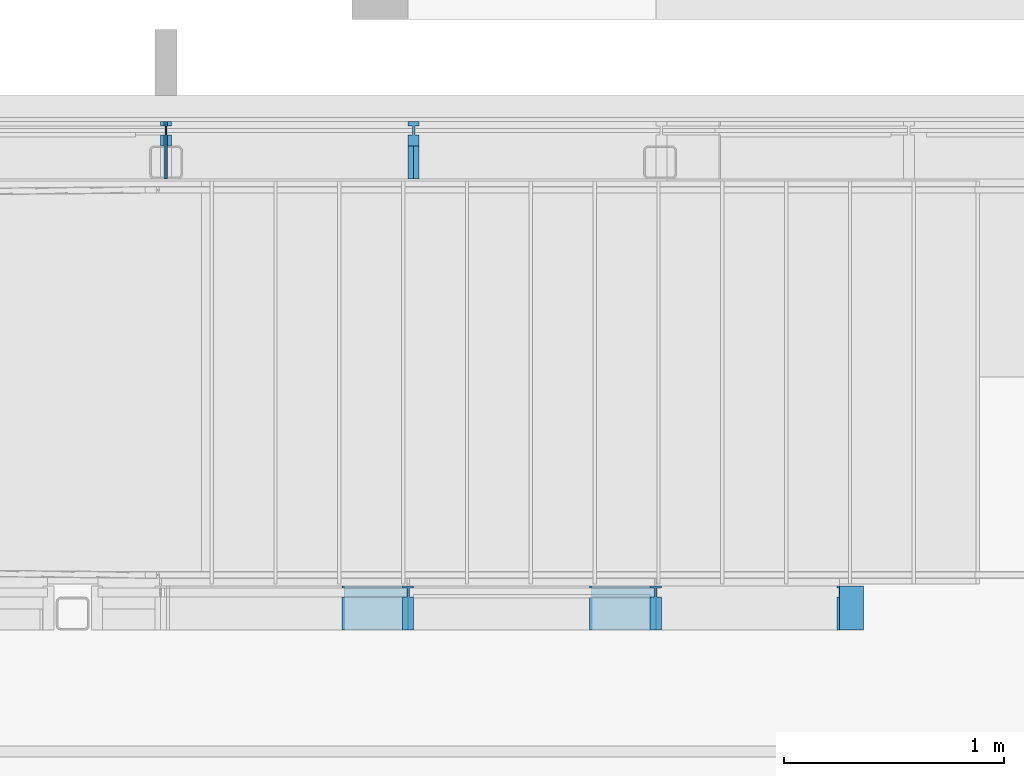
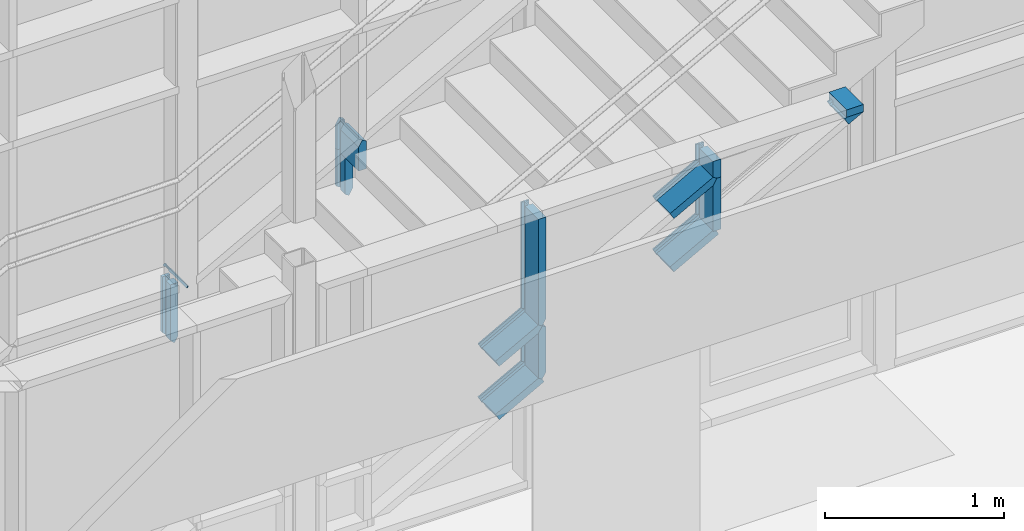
# One storey, part 69 of 301: 14 members, 2 elements without a shape of their own.
"""IFC2X3 building model written with IfcOpenShell, lengths in millimetres."""

from ifc_helpers import new_model, entity, si_unit, converted_unit, derived_unit, money_unit, direction, frame, origin_with_axes, place, context, subcontext, project, spatial, faceted_brep, material, type_object, element, aggregate, save


model = new_model("IFC2X3")

# Units and contexts
model_context = context("Model", 3, precision=0.01, world=origin_with_axes(), true_north=direction((0.0, 1.0)))
body_context = subcontext(model_context, "Body", "Model", "MODEL_VIEW")
ifc_project = project(units=[si_unit("LENGTHUNIT", "METRE", prefix="MILLI"), si_unit("AREAUNIT", "SQUARE_METRE"), si_unit("VOLUMEUNIT", "CUBIC_METRE"), converted_unit("PLANEANGLEUNIT", "DEGREE", entity("IfcPlaneAngleMeasure", 0.0174532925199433), si_unit("PLANEANGLEUNIT", "RADIAN"), dimensions=[0, 0, 0, 0, 0, 0, 0]), money_unit("EUR"), converted_unit("TIMEUNIT", "Year", entity("IfcTimeMeasure", 31557600.0), si_unit("TIMEUNIT", "SECOND"), dimensions=[0, 0, 1, 0, 0, 0, 0]), si_unit("MASSUNIT", "GRAM", prefix="KILO"), si_unit("THERMODYNAMICTEMPERATUREUNIT", "DEGREE_CELSIUS"), si_unit("LUMINOUSINTENSITYUNIT", "LUMEN"), si_unit("ENERGYUNIT", "JOULE", prefix="MEGA"), derived_unit("THERMALCONDUCTANCEUNIT", [(si_unit("POWERUNIT", "WATT"), 1), (si_unit("LENGTHUNIT", "METRE"), -1), (si_unit("THERMODYNAMICTEMPERATUREUNIT", "KELVIN"), -1)]), derived_unit("SPECIFICHEATCAPACITYUNIT", [(si_unit("ENERGYUNIT", "JOULE"), 1), (si_unit("MASSUNIT", "GRAM", prefix="KILO"), -1), (si_unit("THERMODYNAMICTEMPERATUREUNIT", "KELVIN"), -1)]), derived_unit("MASSDENSITYUNIT", [(si_unit("MASSUNIT", "GRAM", prefix="KILO"), 1), (si_unit("VOLUMEUNIT", "CUBIC_METRE"), -1)])], contexts=[model_context])

# Site, building, storey
site_placement = place(None, frame((0.0, 0.0, 8650.0), z_axis=(0.0, 0.0, 1.0), x_axis=(1.0, 0.0, 0.0)))
site = spatial("IfcSite", under=ifc_project, at=site_placement, Name="43301:001:0844", CompositionType="ELEMENT")
building_placement = place(site_placement, origin_with_axes())
building = spatial("IfcBuilding", under=site, at=building_placement, Name="Kuressaare Ametikooli tuulikute mehaanikute õppekorpus", CompositionType="ELEMENT")
storey_placement = place(building_placement, origin_with_axes())
storey = spatial("IfcBuildingStorey", under=building, at=storey_placement, Name="1.korrus", CompositionType="ELEMENT", Elevation=0.0)

# Curtain wall, members
curtain_wall_type = type_object("IfcCurtainWallType", Name="Curtain Wall Type", PredefinedType="NOTDEFINED")
curtain_wall_1_placement = place(storey_placement, frame((116704.6026822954, 28579.57374875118, 35.00000000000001), z_axis=(0.0, 0.0, 1.0), x_axis=(1.0, 0.0, 0.0)))
curtain_wall_1 = element("IfcCurtainWall", 1, at=curtain_wall_1_placement, inside=storey, type_object=curtain_wall_type, Name="KF-1.1")
ifc_material = material(Name="Aluminium")
member_type_1 = type_object("IfcMemberType", Name="Mullion Frame 50 x 260", PredefinedType="NOTDEFINED")
member_1_placement = place(curtain_wall_1_placement, frame((-3937.5, 0.0, 2511.519477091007), z_axis=(0.0, 0.0, 1.0), x_axis=(-1.0, 0.0, 0.0)))
member_1 = element("IfcMember", 2, at=member_1_placement, type_object=member_type_1, material=ifc_material, context=body_context, shape_type="Brep", body=[
    faceted_brep([(-4.999999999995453, 19.99999999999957, 200.8877841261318), (-4.999999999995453, -19.99999999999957, 200.8877841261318), (-25.00000000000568, -19.99999999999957, 188.9958371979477), (-25.00000000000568, -39.99999999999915, 188.9958371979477), (0.0, -39.99999999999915, 203.860770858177), (0.0, 219.9999999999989, 203.860770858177), (-25.00000000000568, 219.9999999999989, 188.9958371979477), (-25.00000000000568, 19.99999999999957, 188.9958371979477), (-4.999999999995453, 19.99999999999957, 0.0), (-4.999999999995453, -19.99999999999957, 0.0), (-25.00000000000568, -19.99999999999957, 0.0), (-25.00000000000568, -39.99999999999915, 0.0), (25.00000000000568, -39.99999999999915, 0.0), (25.00000000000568, -39.99999999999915, 161.8155109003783), (25.00000000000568, -19.99999999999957, 161.8155109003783), (4.999999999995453, -19.99999999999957, 195.4517188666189), (4.999999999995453, 19.99999999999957, 195.4517188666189), (25.00000000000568, 19.99999999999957, 161.8155109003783), (25.00000000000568, 219.9999999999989, 161.8155109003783), (25.00000000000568, 219.9999999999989, 0.0), (-25.00000000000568, 219.9999999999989, 0.0), (-25.00000000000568, 19.99999999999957, 0.0), (25.00000000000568, 19.99999999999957, 0.0), (4.999999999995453, 19.99999999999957, 0.0), (4.999999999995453, -19.99999999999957, 0.0), (25.00000000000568, -19.99999999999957, 0.0)], [[[0, 1, 2, 3, 4, 5, 6, 7]], [[0, 8, 9, 1]], [[1, 9, 10, 2]], [[10, 11, 3, 2]], [[11, 12, 13, 4, 3]], [[5, 4, 13, 14, 15, 16, 17, 18]], [[18, 19, 20, 6, 5]], [[7, 6, 20, 21]], [[7, 21, 8, 0]], [[9, 8, 21, 20, 19, 22, 23, 24, 25, 12, 11, 10]], [[25, 14, 13, 12]], [[14, 25, 24, 15]], [[16, 15, 24, 23]], [[17, 16, 23, 22]], [[17, 22, 19, 18]]]),
])
member_2_placement = place(curtain_wall_1_placement, frame((-5062.5, 0.0, 2103.822906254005), z_axis=(0.0, 0.0, 1.0), x_axis=(-1.0, 0.0, 0.0)))
member_2 = element("IfcMember", 3, at=member_2_placement, type_object=member_type_1, material=ifc_material, context=body_context, shape_type="Brep", body=[
    faceted_brep([(-4.999999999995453, 19.99999999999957, 9.725914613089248), (-4.999999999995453, -19.99999999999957, 9.725914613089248), (-5.783003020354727, -19.99999999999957, 9.725914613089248), (-5.783003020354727, -39.99999999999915, 9.725914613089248), (0.0, -39.99999999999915, 9.725914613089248), (0.0, 219.9999999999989, 9.725914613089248), (-5.783003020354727, 219.9999999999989, 9.725914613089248), (-5.783003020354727, 19.99999999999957, 9.725914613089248), (-4.999999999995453, 19.99999999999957, 8.409051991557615), (-4.999999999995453, -19.99999999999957, 8.409051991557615), (0.0, 219.9999999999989, 0.0), (0.0, -39.99999999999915, 0.0), (9.725914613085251, -39.99999999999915, 0.0), (9.725914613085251, -19.99999999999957, 0.0), (4.999999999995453, -19.99999999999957, 4.725914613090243), (4.999999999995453, 19.99999999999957, 4.725914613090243), (9.725914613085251, 19.99999999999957, 0.0), (9.725914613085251, 219.9999999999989, 0.0), (4.999999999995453, 19.99999999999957, 0.0), (4.999999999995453, -19.99999999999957, 0.0)], [[[0, 1, 2, 3, 4, 5, 6, 7]], [[0, 8, 9, 1]], [[1, 9, 2]], [[9, 8, 7, 6, 10, 11, 3, 2]], [[4, 3, 11, 12]], [[5, 4, 12, 13, 14, 15, 16, 17]], [[17, 10, 6, 5]], [[7, 8, 0]], [[12, 11, 10, 17, 16, 18, 19, 13]], [[19, 14, 13]], [[15, 14, 19, 18]], [[15, 18, 16]]]),
])
member_type_2 = type_object("IfcMemberType", Name="50 x 110", PredefinedType="NOTDEFINED")
member_3_placement = place(curtain_wall_1_placement, frame((-5062.5, 0.0, 1635.327982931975), z_axis=(0.0, 0.0, 1.0), x_axis=(-1.0, 0.0, 0.0)))
member_3 = element("IfcMember", 4, at=member_3_placement, type_object=member_type_2, material=ifc_material, context=body_context, shape_type="Brep", body=[
    faceted_brep([(-4.999999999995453, 19.99999999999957, 404.6720357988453), (-4.999999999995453, -19.99999999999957, 404.6720357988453), (-25.00000000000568, -19.99999999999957, 404.6720357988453), (-25.00000000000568, -39.99999999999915, 404.6720357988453), (25.00000000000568, -39.99999999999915, 404.6720357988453), (25.00000000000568, -19.99999999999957, 404.6720357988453), (4.999999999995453, -19.99999999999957, 404.6720357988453), (4.999999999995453, 19.99999999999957, 404.6720357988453), (25.00000000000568, 19.99999999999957, 404.6720357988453), (25.00000000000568, 70.00000000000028, 404.6720357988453), (-25.00000000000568, 70.00000000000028, 404.6720357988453), (-25.00000000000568, 19.99999999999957, 404.6720357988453), (-4.999999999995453, 19.99999999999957, 8.409051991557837), (-4.999999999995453, -19.99999999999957, 8.409051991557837), (-25.00000000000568, -19.99999999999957, 42.04525995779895), (-25.00000000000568, -39.99999999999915, 42.04525995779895), (25.00000000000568, -39.99999999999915, 24.99999999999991), (0.0, -39.99999999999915, 0.0), (25.00000000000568, -19.99999999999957, 24.99999999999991), (4.999999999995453, -19.99999999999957, 4.999999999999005), (4.999999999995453, 19.99999999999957, 4.999999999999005), (25.00000000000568, 19.99999999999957, 24.99999999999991), (25.00000000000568, 70.00000000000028, 24.99999999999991), (-25.00000000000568, 70.00000000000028, 42.04525995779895), (0.0, 70.00000000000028, 0.0), (-25.00000000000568, 19.99999999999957, 42.04525995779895)], [[[0, 1, 2, 3, 4, 5, 6, 7, 8, 9, 10, 11]], [[0, 12, 13, 1]], [[1, 13, 14, 2]], [[14, 15, 3, 2]], [[16, 4, 3, 15, 17]], [[18, 5, 4, 16]], [[5, 18, 19, 6]], [[7, 6, 19, 20]], [[8, 7, 20, 21]], [[8, 21, 22, 9]], [[23, 10, 9, 22, 24]], [[11, 10, 23, 25]], [[11, 25, 12, 0]], [[13, 12, 25, 23, 24, 17, 15, 14]], [[16, 17, 24, 22, 21, 20, 19, 18]]]),
])
member_4_placement = place(curtain_wall_1_placement, frame((-3937.5, 0.0, 2246.885324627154), z_axis=(0.0, 0.0, 1.0), x_axis=(-1.0, 0.0, 0.0)))
member_4 = element("IfcMember", 5, at=member_4_placement, type_object=member_type_2, material=ifc_material, context=body_context, shape_type="Brep", body=[
    faceted_brep([(-4.999999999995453, 19.99999999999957, 264.6341524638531), (-4.999999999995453, -19.99999999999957, 264.6341524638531), (-25.00000000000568, -19.99999999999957, 264.6341524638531), (-25.00000000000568, -39.99999999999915, 264.6341524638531), (25.00000000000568, -39.99999999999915, 264.6341524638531), (25.00000000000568, -19.99999999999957, 264.6341524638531), (4.999999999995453, -19.99999999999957, 264.6341524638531), (4.999999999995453, 19.99999999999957, 264.6341524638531), (25.00000000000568, 19.99999999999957, 264.6341524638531), (25.00000000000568, 70.00000000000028, 264.6341524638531), (-25.00000000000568, 70.00000000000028, 264.6341524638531), (-25.00000000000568, 19.99999999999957, 264.6341524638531), (-4.999999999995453, 19.99999999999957, 8.409051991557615), (-4.999999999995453, -19.99999999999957, 8.409051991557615), (-25.00000000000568, -19.99999999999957, 42.04525995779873), (-25.00000000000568, -39.99999999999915, 42.04525995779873), (25.00000000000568, -39.99999999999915, 14.86493366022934), (0.0, -39.99999999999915, 0.0), (25.00000000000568, -19.99999999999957, 14.86493366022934), (4.999999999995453, -19.99999999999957, 2.972986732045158), (4.999999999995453, 19.99999999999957, 2.972986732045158), (25.00000000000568, 19.99999999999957, 14.86493366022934), (25.00000000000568, 70.00000000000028, 14.86493366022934), (-25.00000000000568, 70.00000000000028, 42.04525995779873), (0.0, 70.00000000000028, 0.0), (-25.00000000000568, 19.99999999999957, 42.04525995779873)], [[[0, 1, 2, 3, 4, 5, 6, 7, 8, 9, 10, 11]], [[0, 12, 13, 1]], [[1, 13, 14, 2]], [[14, 15, 3, 2]], [[16, 4, 3, 15, 17]], [[18, 5, 4, 16]], [[5, 18, 19, 6]], [[7, 6, 19, 20]], [[8, 7, 20, 21]], [[8, 21, 22, 9]], [[23, 10, 9, 22, 24]], [[11, 10, 23, 25]], [[11, 25, 12, 0]], [[13, 12, 25, 23, 24, 17, 15, 14]], [[16, 17, 24, 22, 21, 20, 19, 18]]]),
])
aggregate(curtain_wall_1, [member_1, member_2, member_3, member_4])

curtain_wall_2_placement = place(storey_placement, frame((111472.5258007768, 26479.57374875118, 1595.348937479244), z_axis=(0.0, 0.0, 1.0), x_axis=(1.0, 0.0, 0.0)))
curtain_wall_2 = element("IfcCurtainWall", 6, at=curtain_wall_2_placement, inside=storey, type_object=curtain_wall_type, Name="SKF-1.2,EI60")
member_type_3 = type_object("IfcMemberType", Name="Boundary Frame 50 x 200", PredefinedType="NOTDEFINED")
member_5_placement = place(curtain_wall_2_placement, frame((3331.859564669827, 0.0, 1900.000044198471), z_axis=(-0.9999999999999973, 0.0, -7.377577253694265e-08), x_axis=(7.377577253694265e-08, 0.0, -0.9999999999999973)))
member_5 = element("IfcMember", 7, at=member_5_placement, type_object=member_type_3, material=ifc_material, context=body_context, shape_type="Brep", body=[
    faceted_brep([(4.999992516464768, 19.99999999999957, 101.4362172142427), (24.99999251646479, 19.99999999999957, 101.4362186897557), (24.99999251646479, 170.0000000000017, 101.4362186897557), (-25.00000748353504, 170.0000000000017, 101.4362150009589), (-25.00000748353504, -30.00000000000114, 101.4362150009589), (24.99999251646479, -30.00000000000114, 101.4362186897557), (24.99999251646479, -19.99999999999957, 101.4362186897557), (4.999992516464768, -19.99999999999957, 101.4362172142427), (5.000000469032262, 19.99999999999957, -6.357535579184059), (25.00000046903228, 19.99999999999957, -6.357534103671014), (25.00000046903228, 170.0000000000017, -6.357534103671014), (-24.99999953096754, 170.0000000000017, -6.357537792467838), (-24.99999953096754, -30.00000000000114, -6.357537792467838), (25.00000046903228, -30.00000000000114, -6.357534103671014), (25.00000046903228, -19.99999999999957, -6.357534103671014), (5.000000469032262, -19.99999999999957, -6.357535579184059)], [[[0, 1, 2, 3, 4, 5, 6, 7]], [[0, 8, 9, 1]], [[9, 10, 2, 1]], [[10, 11, 3, 2]], [[11, 12, 4, 3]], [[12, 13, 5, 4]], [[6, 5, 13, 14]], [[14, 15, 7, 6]], [[7, 15, 8, 0]], [[8, 15, 14, 13, 12, 11, 10, 9]]]),
])
member_type_4 = type_object("IfcMemberType", Name="Mullion Frame 50 x 200", PredefinedType="NOTDEFINED")
member_6_placement = place(curtain_wall_2_placement, frame((1269.576675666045, 0.0, 1141.067258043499), z_axis=(5.715965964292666e-09, 0.0, 1.0), x_axis=(-1.0, 0.0, 5.715965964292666e-09)))
member_6 = element("IfcMember", 8, at=member_6_placement, type_object=member_type_4, material=ifc_material, context=body_context, shape_type="Brep", body=[
    faceted_brep([(-4.999995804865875, 19.99999999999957, 733.9327785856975), (-4.999995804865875, -19.99999999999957, 733.9327788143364), (-24.99999580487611, -19.99999999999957, 733.9327789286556), (-24.99999580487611, -30.00000000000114, 733.9327789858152), (25.00000419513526, -30.00000000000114, 733.9327787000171), (25.00000419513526, -19.99999999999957, 733.9327786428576), (5.00000419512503, -19.99999999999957, 733.9327787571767), (5.00000419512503, 19.99999999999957, 733.9327785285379), (25.00000419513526, 19.99999999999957, 733.9327784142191), (25.00000419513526, 170.0000000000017, 733.932777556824), (-24.99999580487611, 170.0000000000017, 733.9327778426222), (-24.99999580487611, 19.99999999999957, 733.9327787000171), (-4.999999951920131, 19.99999999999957, 8.410212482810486), (-4.999999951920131, -19.99999999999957, 8.410212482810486), (-24.99999975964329, -19.99999999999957, 42.05106241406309), (-24.99999975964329, -30.00000000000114, 42.05106241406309), (25.00000008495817, -30.00000000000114, 14.86288202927), (0.0, -30.00000000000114, 0.0), (25.00000008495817, -19.99999999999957, 14.86288202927), (5.000000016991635, -19.99999999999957, 2.972576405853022), (5.000000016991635, 19.99999999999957, 2.972576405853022), (25.00000008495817, 19.99999999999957, 14.86288202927), (25.00000008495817, 170.0000000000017, 14.86288202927), (-24.99999975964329, 170.0000000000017, 42.05106241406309), (0.0, 170.0000000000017, 0.0), (-24.99999975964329, 19.99999999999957, 42.05106241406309)], [[[0, 1, 2, 3, 4, 5, 6, 7, 8, 9, 10, 11]], [[0, 12, 13, 1]], [[1, 13, 14, 2]], [[14, 15, 3, 2]], [[16, 4, 3, 15, 17]], [[18, 5, 4, 16]], [[5, 18, 19, 6]], [[7, 6, 19, 20]], [[8, 7, 20, 21]], [[8, 21, 22, 9]], [[23, 10, 9, 22, 24]], [[11, 10, 23, 25]], [[11, 25, 12, 0]], [[13, 12, 25, 23, 24, 17, 15, 14]], [[16, 17, 24, 22, 21, 20, 19, 18]]]),
])
member_7_placement = place(curtain_wall_2_placement, frame((1269.576677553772, 0.0, 778.5994381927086), z_axis=(-5.207985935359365e-09, 0.0, 1.0), x_axis=(-1.0, 0.0, -5.207985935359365e-09)))
member_7 = element("IfcMember", 9, at=member_7_placement, type_object=member_type_4, material=ifc_material, context=body_context, shape_type="Brep", body=[
    faceted_brep([(-5.00000187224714, 19.99999999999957, 359.4952432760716), (-5.00000187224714, -19.99999999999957, 359.4952432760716), (-25.00000181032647, -19.99999999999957, 347.6049369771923), (-25.00000181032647, -30.00000000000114, 347.6049369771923), (-1.887727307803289e-06, -30.00000000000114, 362.4678198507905), (-1.887727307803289e-06, 170.0000000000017, 362.4678198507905), (-25.00000181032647, 170.0000000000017, 347.6049369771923), (-25.00000181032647, 19.99999999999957, 347.6049369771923), (-5.000000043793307, 19.99999999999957, 8.410233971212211), (-5.000000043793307, -19.99999999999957, 8.410233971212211), (-25.00000021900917, -19.99999999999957, 42.05116985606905), (-25.00000021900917, -30.00000000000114, 42.05116985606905), (0.0, -30.00000000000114, 0.0), (24.99999992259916, -30.00000000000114, 14.86284461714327), (24.99999833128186, -30.00000000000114, 320.4167571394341), (24.99999833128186, -19.99999999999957, 320.4167571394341), (4.999998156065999, -19.99999999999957, 354.05760730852), (4.999998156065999, 19.99999999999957, 354.05760730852), (24.99999833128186, 19.99999999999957, 320.4167571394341), (24.99999833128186, 170.0000000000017, 320.4167571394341), (0.0, 170.0000000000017, 0.0), (-25.00000021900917, 170.0000000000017, 42.05116985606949), (24.99999992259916, 170.0000000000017, 14.86284461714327), (-25.00000021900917, 19.99999999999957, 42.05116985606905), (24.99999992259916, 19.99999999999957, 14.86284461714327), (4.999999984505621, 19.99999999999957, 2.972568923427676), (4.999999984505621, -19.99999999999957, 2.972568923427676), (24.99999992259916, -19.99999999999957, 14.86284461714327)], [[[0, 1, 2, 3, 4, 5, 6, 7]], [[0, 8, 9, 1]], [[1, 9, 10, 2]], [[10, 11, 3, 2]], [[12, 13, 14, 4, 3, 11]], [[5, 4, 14, 15, 16, 17, 18, 19]], [[20, 21, 6, 5, 19, 22]], [[7, 6, 21, 23]], [[7, 23, 8, 0]], [[9, 8, 23, 21, 20, 12, 11, 10]], [[13, 12, 20, 22, 24, 25, 26, 27]], [[27, 15, 14, 13]], [[15, 27, 26, 16]], [[17, 16, 26, 25]], [[18, 17, 25, 24]], [[18, 24, 22, 19]]]),
])
member_8_placement = place(curtain_wall_2_placement, frame((2394.576644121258, 0.0, 1397.757854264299), z_axis=(-5.714664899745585e-09, 0.0, 1.0), x_axis=(-1.0, 0.0, -5.714664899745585e-09)))
member_8 = element("IfcMember", 10, at=member_8_placement, type_object=member_type_4, material=ifc_material, context=body_context, shape_type="Brep", body=[
    faceted_brep([(-5.000002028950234, 19.99999999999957, 355.0435270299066), (-5.000002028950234, -19.99999999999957, 355.0435270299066), (-25.00000202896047, -19.99999999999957, 355.0435269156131), (-25.00000202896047, -30.00000000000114, 355.0435269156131), (-2.028954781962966e-06, -30.00000000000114, 355.0435270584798), (-2.028954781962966e-06, 170.0000000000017, 355.0435270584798), (-25.00000202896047, 170.0000000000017, 355.0435269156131), (-25.00000202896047, 19.99999999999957, 355.0435269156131), (-4.999999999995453, 19.99999999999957, -2.857314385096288e-08), (-4.999999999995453, -19.99999999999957, -2.857314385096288e-08), (-25.00000000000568, -19.99999999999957, -1.428666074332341e-07), (-25.00000000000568, -30.00000000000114, -1.428666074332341e-07), (25.00000000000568, -30.00000000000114, 1.428670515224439e-07), (24.99999821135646, -30.00000000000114, 312.9924518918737), (24.99999821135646, -19.99999999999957, 312.9924518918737), (4.999998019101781, -19.99999999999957, 346.6333120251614), (4.999998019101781, 19.99999999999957, 346.6333120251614), (24.99999821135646, 19.99999999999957, 312.9924518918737), (24.99999821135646, 170.0000000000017, 312.9924518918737), (25.00000000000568, 170.0000000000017, 1.428670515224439e-07), (-25.00000000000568, 170.0000000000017, -1.428666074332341e-07), (-25.00000000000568, 19.99999999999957, -1.428666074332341e-07), (25.00000000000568, 19.99999999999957, 1.428670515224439e-07), (4.999999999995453, 19.99999999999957, 2.857358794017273e-08), (4.999999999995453, -19.99999999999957, 2.857358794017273e-08), (25.00000000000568, -19.99999999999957, 1.428670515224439e-07)], [[[0, 1, 2, 3, 4, 5, 6, 7]], [[0, 8, 9, 1]], [[1, 9, 10, 2]], [[10, 11, 3, 2]], [[3, 11, 12, 13, 4]], [[5, 4, 13, 14, 15, 16, 17, 18]], [[19, 20, 6, 5, 18]], [[7, 6, 20, 21]], [[7, 21, 8, 0]], [[9, 8, 21, 20, 19, 22, 23, 24, 25, 12, 11, 10]], [[25, 14, 13, 12]], [[14, 25, 24, 15]], [[16, 15, 24, 23]], [[17, 16, 23, 22]], [[17, 22, 19, 18]]]),
])
member_9_placement = place(curtain_wall_2_placement, frame((1269.576675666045, 0.0, 1141.067258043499), z_axis=(-0.8785193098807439, 0.0, -0.4777068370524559), x_axis=(0.4777068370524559, 0.0, -0.8785193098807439)))
member_9 = element("IfcMember", 11, at=member_9_placement, type_object=member_type_4, material=ifc_material, context=body_context, shape_type="Brep", body=[
    faceted_brep([(-4.999999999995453, 19.99999999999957, 329.1371338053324), (-4.999999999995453, -19.99999999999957, 329.1371338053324), (-24.99999999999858, -19.99999999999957, 329.1371338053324), (-24.99999999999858, -30.00000000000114, 329.1371338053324), (24.99999999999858, -30.00000000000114, 329.1371338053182), (24.99999999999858, -19.99999999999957, 329.1371338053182), (4.999999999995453, -19.99999999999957, 329.1371338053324), (4.999999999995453, 19.99999999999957, 329.1371338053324), (24.99999999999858, 19.99999999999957, 329.1371338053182), (24.99999999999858, 170.0000000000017, 329.1371338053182), (-24.99999999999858, 170.0000000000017, 329.1371338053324), (-24.99999999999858, 19.99999999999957, 329.1371338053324), (-5.000000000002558, 19.99999999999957, 2.972576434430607), (-5.000000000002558, -19.99999999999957, 2.972576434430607), (-25.00000000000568, -19.99999999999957, 14.86288217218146), (-25.00000000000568, -30.00000000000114, 14.86288217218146), (25.00000000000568, -30.00000000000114, 42.05106284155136), (0.0, -30.00000000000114, 0.0), (25.00000000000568, -19.99999999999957, 42.05106284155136), (5.000000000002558, -19.99999999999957, 8.410212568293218), (5.000000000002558, 19.99999999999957, 8.410212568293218), (25.00000000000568, 19.99999999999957, 42.05106284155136), (25.00000000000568, 170.0000000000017, 42.05106284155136), (-25.00000000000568, 170.0000000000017, 14.86288217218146), (0.0, 170.0000000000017, 0.0), (-25.00000000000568, 19.99999999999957, 14.86288217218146)], [[[0, 1, 2, 3, 4, 5, 6, 7, 8, 9, 10, 11]], [[0, 12, 13, 1]], [[1, 13, 14, 2]], [[14, 15, 3, 2]], [[16, 4, 3, 15, 17]], [[18, 5, 4, 16]], [[5, 18, 19, 6]], [[7, 6, 19, 20]], [[8, 7, 20, 21]], [[8, 21, 22, 9]], [[23, 10, 9, 22, 24]], [[11, 10, 23, 25]], [[11, 25, 12, 0]], [[13, 12, 25, 23, 24, 17, 15, 14]], [[16, 17, 24, 22, 21, 20, 19, 18]]]),
])
member_10_placement = place(curtain_wall_2_placement, frame((3331.859564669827, 0.0, 1900.000044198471), z_axis=(-0.8785176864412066, 0.0, -0.4777098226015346), x_axis=(0.4777098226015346, 0.0, -0.8785176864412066)))
member_10 = element("IfcMember", 12, at=member_10_placement, type_object=member_type_4, material=ifc_material, context=body_context, shape_type="Brep", body=[
    faceted_brep([(-5.000000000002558, 19.99999999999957, 115.462945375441), (-5.000000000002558, -19.99999999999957, 115.462945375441), (-24.99999999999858, -19.99999999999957, 115.462945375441), (-24.99999999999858, -30.00000000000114, 115.462945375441), (24.99999999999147, -30.00000000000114, 115.4629453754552), (24.99999999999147, -19.99999999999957, 115.4629453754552), (4.999999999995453, -19.99999999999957, 115.4629453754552), (4.999999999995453, 19.99999999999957, 115.4629453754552), (24.99999999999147, 19.99999999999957, 115.4629453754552), (24.99999999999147, 170.0000000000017, 115.4629453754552), (-24.99999999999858, 170.0000000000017, 115.462945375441), (-24.99999999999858, 19.99999999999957, 115.462945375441), (-5.000000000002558, 19.99999999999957, 61.5281311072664), (-5.000000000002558, -19.99999999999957, 61.5281311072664), (-25.00000000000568, -19.99999999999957, 98.30852788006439), (-25.00000000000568, -30.00000000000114, 98.30852788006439), (24.99999999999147, -30.00000000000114, 6.357535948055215), (24.99999999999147, -19.99999999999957, 6.357535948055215), (4.999999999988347, -19.99999999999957, 43.13793272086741), (4.999999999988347, 19.99999999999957, 43.13793272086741), (24.99999999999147, 19.99999999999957, 6.357535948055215), (24.99999999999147, 170.0000000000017, 6.357535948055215), (-25.00000000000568, 170.0000000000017, 98.30852788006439), (-25.00000000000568, 19.99999999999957, 98.30852788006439)], [[[0, 1, 2, 3, 4, 5, 6, 7, 8, 9, 10, 11]], [[0, 12, 13, 1]], [[1, 13, 14, 2]], [[14, 15, 3, 2]], [[4, 3, 15, 16]], [[17, 5, 4, 16]], [[5, 17, 18, 6]], [[7, 6, 18, 19]], [[8, 7, 19, 20]], [[8, 20, 21, 9]], [[10, 9, 21, 22]], [[11, 10, 22, 23]], [[11, 23, 12, 0]], [[13, 12, 23, 22, 21, 20, 19, 18, 17, 16, 15, 14]]]),
])
member_11_placement = place(curtain_wall_2_placement, frame((2394.499557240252, 0.0, 1390.294864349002), z_axis=(-0.8785182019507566, 0.0, -0.4777088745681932), x_axis=(0.4777088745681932, 0.0, -0.8785182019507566)))
member_11 = element("IfcMember", 13, at=member_11_placement, type_object=member_type_4, material=ifc_material, context=body_context, shape_type="Brep", body=[
    faceted_brep([(-5.000000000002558, 19.99999999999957, 329.04976664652), (-5.000000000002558, -19.99999999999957, 329.04976664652), (-24.99999999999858, -19.99999999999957, 329.04976664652), (-24.99999999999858, -30.00000000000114, 329.04976664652), (24.99999999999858, -30.00000000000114, 329.04976664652), (24.99999999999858, -19.99999999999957, 329.04976664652), (4.999999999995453, -19.99999999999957, 329.0497666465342), (4.999999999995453, 19.99999999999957, 329.0497666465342), (24.99999999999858, 19.99999999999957, 329.04976664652), (24.99999999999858, 170.0000000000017, 329.04976664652), (-24.99999999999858, 170.0000000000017, 329.04976664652), (-24.99999999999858, 19.99999999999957, 329.04976664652), (-5.000000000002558, 19.99999999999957, -1.069011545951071e-06), (-5.000000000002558, -19.99999999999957, -1.069011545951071e-06), (-25.00000000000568, -19.99999999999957, -1.069011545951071e-06), (-25.00000000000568, -30.00000000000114, -1.069011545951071e-06), (24.99999999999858, -30.00000000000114, -1.069011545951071e-06), (24.99999999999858, -19.99999999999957, -1.069011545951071e-06), (5.000000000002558, -19.99999999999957, -1.069025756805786e-06), (5.000000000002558, 19.99999999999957, -1.069025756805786e-06), (24.99999999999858, 19.99999999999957, -1.069011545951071e-06), (24.99999999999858, 170.0000000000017, -1.069011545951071e-06), (-25.00000000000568, 170.0000000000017, -1.069011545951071e-06), (-25.00000000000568, 19.99999999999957, -1.069011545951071e-06)], [[[0, 1, 2, 3, 4, 5, 6, 7, 8, 9, 10, 11]], [[0, 12, 13, 1]], [[1, 13, 14, 2]], [[14, 15, 3, 2]], [[3, 15, 16, 4]], [[17, 5, 4, 16]], [[5, 17, 18, 6]], [[7, 6, 18, 19]], [[8, 7, 19, 20]], [[8, 20, 21, 9]], [[9, 21, 22, 10]], [[11, 10, 22, 23]], [[11, 23, 12, 0]], [[13, 12, 23, 22, 21, 20, 19, 18, 17, 16, 15, 14]]]),
])
member_12_placement = place(curtain_wall_2_placement, frame((1269.576677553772, 0.0, 778.5994381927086), z_axis=(-0.8785182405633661, 0.0, -0.4777088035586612), x_axis=(0.4777088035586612, 0.0, -0.8785182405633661)))
member_12 = element("IfcMember", 14, at=member_12_placement, type_object=member_type_4, material=ifc_material, context=body_context, shape_type="Brep", body=[
    faceted_brep([(-5.000000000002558, 19.99999999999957, 329.1375359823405), (-5.000000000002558, -19.99999999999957, 329.1375359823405), (-24.99999999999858, -19.99999999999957, 329.1375359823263), (-24.99999999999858, -30.00000000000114, 329.1375359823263), (24.99999999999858, -30.00000000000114, 329.1375359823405), (24.99999999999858, -19.99999999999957, 329.1375359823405), (5.000000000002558, -19.99999999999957, 329.1375359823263), (5.000000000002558, 19.99999999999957, 329.1375359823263), (24.99999999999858, 19.99999999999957, 329.1375359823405), (24.99999999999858, 170.0000000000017, 329.1375359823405), (-24.99999999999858, 170.0000000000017, 329.1375359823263), (-24.99999999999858, 19.99999999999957, 329.1375359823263), (-5.000000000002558, 19.99999999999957, 2.97256889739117), (-5.000000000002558, -19.99999999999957, 2.97256889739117), (-25.00000000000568, -19.99999999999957, 14.86284448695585), (-25.00000000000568, -30.00000000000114, 14.86284448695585), (25.00000000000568, -30.00000000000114, 0.0), (0.0, -30.00000000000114, 0.0), (25.00000000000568, -19.99999999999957, 0.0), (4.999999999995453, -19.99999999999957, 0.0), (4.999999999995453, 19.99999999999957, 0.0), (25.00000000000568, 19.99999999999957, 0.0), (25.00000000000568, 170.0000000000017, 0.0), (0.0, 170.0000000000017, 0.0), (-25.00000000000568, 170.0000000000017, 14.86284448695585), (-25.00000000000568, 19.99999999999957, 14.86284448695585)], [[[0, 1, 2, 3, 4, 5, 6, 7, 8, 9, 10, 11]], [[0, 12, 13, 1]], [[1, 13, 14, 2]], [[14, 15, 3, 2]], [[16, 4, 3, 15, 17]], [[18, 5, 4, 16]], [[5, 18, 19, 6]], [[7, 6, 19, 20]], [[8, 7, 20, 21]], [[8, 21, 22, 9]], [[10, 9, 22, 23, 24]], [[11, 10, 24, 25]], [[11, 25, 12, 0]], [[13, 12, 25, 24, 23, 17, 15, 14]], [[16, 17, 23, 22, 21, 20, 19, 18]]]),
])
member_13_placement = place(curtain_wall_2_placement, frame((2105.423349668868, 0.0, 1595.570243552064), z_axis=(0.8785191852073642, 0.0, 0.4777070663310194), x_axis=(-0.4777070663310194, 0.0, 0.8785191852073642)))
member_13 = element("IfcMember", 15, at=member_13_placement, type_object=member_type_4, material=ifc_material, context=body_context, shape_type="Brep", body=[
    faceted_brep([(-4.999999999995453, 19.99999999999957, 320.7269253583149), (-4.999999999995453, -19.99999999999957, 320.7269253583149), (-24.99999999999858, -19.99999999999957, 287.0860651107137), (-24.99999999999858, -30.00000000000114, 287.0860651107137), (0.0, -30.00000000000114, 329.1371404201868), (0.0, 170.0000000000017, 329.1371404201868), (-24.99999999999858, 170.0000000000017, 287.0860651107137), (-24.99999999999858, 19.99999999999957, 287.0860651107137), (-4.999999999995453, 19.99999999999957, -7.095579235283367e-06), (-4.999999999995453, -19.99999999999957, -7.095579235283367e-06), (-24.99999999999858, -19.99999999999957, -7.095579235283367e-06), (-24.99999999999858, -30.00000000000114, -7.095579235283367e-06), (25.00000000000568, -30.00000000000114, -7.095579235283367e-06), (25.00000000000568, -30.00000000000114, 314.2742629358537), (25.00000000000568, -19.99999999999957, 314.2742629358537), (5.000000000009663, -19.99999999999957, 326.1645649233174), (5.000000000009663, 19.99999999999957, 326.1645649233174), (25.00000000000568, 19.99999999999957, 314.2742629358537), (25.00000000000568, 170.0000000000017, 314.2742629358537), (25.00000000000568, 170.0000000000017, -7.095579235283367e-06), (-24.99999999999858, 170.0000000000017, -7.095579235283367e-06), (-24.99999999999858, 19.99999999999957, -7.095579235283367e-06), (25.00000000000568, 19.99999999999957, -7.095579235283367e-06), (5.000000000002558, 19.99999999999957, -7.095593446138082e-06), (5.000000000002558, -19.99999999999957, -7.095593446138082e-06), (25.00000000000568, -19.99999999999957, -7.095579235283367e-06)], [[[0, 1, 2, 3, 4, 5, 6, 7]], [[0, 8, 9, 1]], [[1, 9, 10, 2]], [[10, 11, 3, 2]], [[11, 12, 13, 4, 3]], [[5, 4, 13, 14, 15, 16, 17, 18]], [[18, 19, 20, 6, 5]], [[7, 6, 20, 21]], [[7, 21, 8, 0]], [[9, 8, 21, 20, 19, 22, 23, 24, 25, 12, 11, 10]], [[25, 14, 13, 12]], [[14, 25, 24, 15]], [[16, 15, 24, 23]], [[17, 16, 23, 22]], [[17, 22, 19, 18]]]),
])
member_14_placement = place(curtain_wall_2_placement, frame((2394.576642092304, 0.0, 1752.801381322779), z_axis=(2.182235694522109e-08, 0.0, 0.9999999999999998), x_axis=(-0.9999999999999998, 0.0, 2.182235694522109e-08)))
member_14 = element("IfcMember", 16, at=member_14_placement, type_object=member_type_4, material=ifc_material, context=body_context, shape_type="Brep", body=[
    faceted_brep([(-4.999997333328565, 19.99999999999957, 122.198655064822), (-4.999997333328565, -19.99999999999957, 122.1986559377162), (-24.9999973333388, -19.99999999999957, 122.1986563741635), (-24.9999973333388, -30.00000000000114, 122.1986565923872), (25.00000266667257, -30.00000000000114, 122.1986555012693), (25.00000266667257, -19.99999999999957, 122.1986552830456), (5.00000266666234, -19.99999999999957, 122.198655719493), (5.00000266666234, 19.99999999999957, 122.1986548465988), (25.00000266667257, 19.99999999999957, 122.1986544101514), (25.00000266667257, 170.0000000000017, 122.1986511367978), (-24.9999973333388, 170.0000000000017, 122.1986522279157), (-24.9999973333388, 19.99999999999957, 122.1986555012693), (-4.999999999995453, 19.99999999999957, 1.091113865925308e-07), (-4.999999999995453, -19.99999999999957, 1.091113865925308e-07), (-25.00000000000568, -19.99999999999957, 5.455582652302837e-07), (-25.00000000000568, -30.00000000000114, 5.455582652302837e-07), (0.0, -30.00000000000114, 0.0), (25.00000032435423, -30.00000000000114, 14.86287693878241), (25.00000032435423, -19.99999999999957, 14.86287693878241), (5.000000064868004, -19.99999999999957, 2.972575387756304), (5.000000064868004, 19.99999999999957, 2.972575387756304), (25.00000032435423, 19.99999999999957, 14.86287693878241), (25.00000032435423, 170.0000000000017, 14.86287693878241), (-25.00000000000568, 170.0000000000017, 5.455582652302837e-07), (0.0, 170.0000000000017, 0.0), (-25.00000000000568, 19.99999999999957, 5.455582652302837e-07)], [[[0, 1, 2, 3, 4, 5, 6, 7, 8, 9, 10, 11]], [[0, 12, 13, 1]], [[1, 13, 14, 2]], [[14, 15, 3, 2]], [[4, 3, 15, 16, 17]], [[18, 5, 4, 17]], [[5, 18, 19, 6]], [[7, 6, 19, 20]], [[8, 7, 20, 21]], [[8, 21, 22, 9]], [[23, 10, 9, 22, 24]], [[11, 10, 23, 25]], [[11, 25, 12, 0]], [[13, 12, 25, 23, 24, 16, 15, 14]], [[17, 16, 24, 22, 21, 20, 19, 18]]]),
])
aggregate(curtain_wall_2, [member_6, member_5, member_7, member_8, member_9, member_10, member_11, member_12, member_13, member_14])

save(model, "model.ifc")
